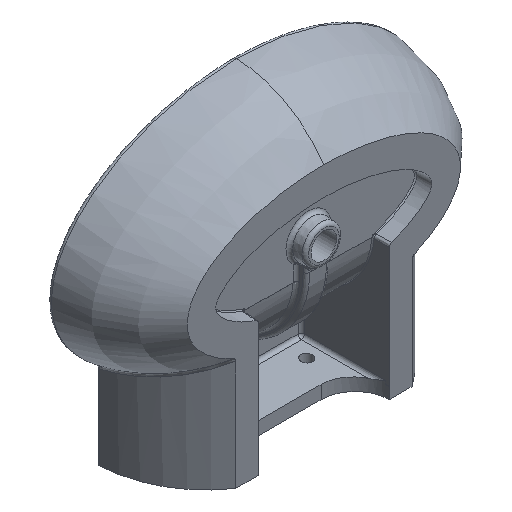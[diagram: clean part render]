
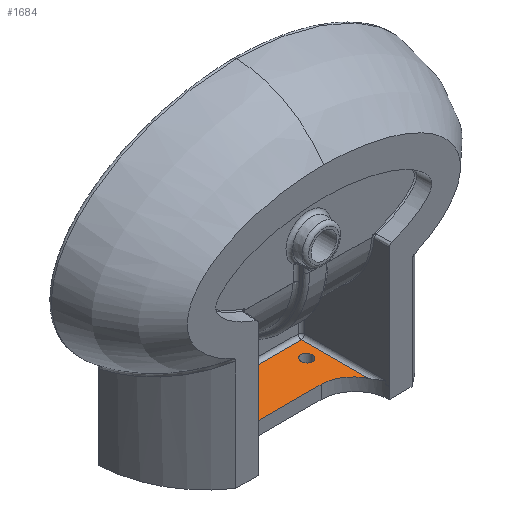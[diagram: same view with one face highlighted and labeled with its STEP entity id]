
A CAD part, isometric view. The second image highlights one B-rep face of the part: STEP entity #1684.
In plain terms, the highlighted planar face has unit normal (0, -0.052, 0.999).
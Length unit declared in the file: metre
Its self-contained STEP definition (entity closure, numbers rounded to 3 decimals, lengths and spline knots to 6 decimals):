
#110=FACE_BOUND('',#297,.T.);
#111=FACE_BOUND('',#298,.T.);
#118=ELLIPSE('',#1816,0.060082,0.06);
#119=ELLIPSE('',#1817,0.060082,0.06);
#120=ELLIPSE('',#1818,0.010014,0.01);
#121=ELLIPSE('',#1819,0.010014,0.01);
#171=FACE_OUTER_BOUND('',#296,.T.);
#296=EDGE_LOOP('',(#1215,#1216,#1217,#1218,#1219,#1220));
#297=EDGE_LOOP('',(#1221));
#298=EDGE_LOOP('',(#1222));
#613=LINE('',#6930,#671);
#614=LINE('',#6932,#672);
#615=LINE('',#6936,#673);
#616=LINE('',#6939,#674);
#671=VECTOR('',#2039,0.203205);
#672=VECTOR('',#2040,0.112546);
#673=VECTOR('',#2043,0.11);
#674=VECTOR('',#2046,0.112546);
#774=VERTEX_POINT('',#6928);
#775=VERTEX_POINT('',#6929);
#776=VERTEX_POINT('',#6931);
#777=VERTEX_POINT('',#6933);
#778=VERTEX_POINT('',#6935);
#779=VERTEX_POINT('',#6937);
#780=VERTEX_POINT('',#6940);
#781=VERTEX_POINT('',#6942);
#938=EDGE_CURVE('',#774,#775,#613,.F.);
#939=EDGE_CURVE('',#775,#776,#614,.F.);
#940=EDGE_CURVE('',#777,#776,#118,.T.);
#941=EDGE_CURVE('',#778,#777,#615,.F.);
#942=EDGE_CURVE('',#778,#779,#119,.T.);
#943=EDGE_CURVE('',#774,#779,#616,.F.);
#944=EDGE_CURVE('',#780,#780,#120,.T.);
#945=EDGE_CURVE('',#781,#781,#121,.T.);
#1215=ORIENTED_EDGE('',*,*,#938,.T.);
#1216=ORIENTED_EDGE('',*,*,#939,.T.);
#1217=ORIENTED_EDGE('',*,*,#940,.F.);
#1218=ORIENTED_EDGE('',*,*,#941,.F.);
#1219=ORIENTED_EDGE('',*,*,#942,.T.);
#1220=ORIENTED_EDGE('',*,*,#943,.F.);
#1221=ORIENTED_EDGE('',*,*,#944,.T.);
#1222=ORIENTED_EDGE('',*,*,#945,.F.);
#1659=PLANE('',#1815);
#1684=ADVANCED_FACE('',(#171,#110,#111),#1659,.T.);
#1815=AXIS2_PLACEMENT_3D('',#6927,#2037,#2038);
#1816=AXIS2_PLACEMENT_3D('',#6934,#2041,#2042);
#1817=AXIS2_PLACEMENT_3D('',#6938,#2044,#2045);
#1818=AXIS2_PLACEMENT_3D('',#6941,#2047,#2048);
#1819=AXIS2_PLACEMENT_3D('',#6943,#2049,#2050);
#2037=DIRECTION('center_axis',(0.,-0.052,0.999));
#2038=DIRECTION('ref_axis',(1.,0.,0.));
#2039=DIRECTION('',(1.,0.,0.));
#2040=DIRECTION('',(0.052,0.997,0.052));
#2041=DIRECTION('center_axis',(0.,-0.052,0.999));
#2042=DIRECTION('ref_axis',(0.,-0.999,-0.052));
#2043=DIRECTION('',(1.,0.,0.));
#2044=DIRECTION('center_axis',(0.,0.052,-0.999));
#2045=DIRECTION('ref_axis',(0.,-0.999,-0.052));
#2046=DIRECTION('',(-0.052,0.997,0.052));
#2047=DIRECTION('center_axis',(0.,0.052,-0.999));
#2048=DIRECTION('ref_axis',(0.,-0.999,-0.052));
#2049=DIRECTION('center_axis',(0.,-0.052,0.999));
#2050=DIRECTION('ref_axis',(0.,-0.999,-0.052));
#6927=CARTESIAN_POINT('Origin',(-0.115,-0.16,-0.271799));
#6928=CARTESIAN_POINT('',(0.101602,-0.018686,-0.264393));
#6929=CARTESIAN_POINT('',(-0.101602,-0.018686,-0.264393));
#6930=CARTESIAN_POINT('',(-0.101602,-0.018686,-0.264393));
#6931=CARTESIAN_POINT('',(-0.107484,-0.130925,-0.270275));
#6932=CARTESIAN_POINT('',(-0.107484,-0.130925,-0.270275));
#6933=CARTESIAN_POINT('',(-0.055,-0.1,-0.268654));
#6934=CARTESIAN_POINT('Origin',(-0.055,-0.16,-0.271799));
#6935=CARTESIAN_POINT('',(0.055,-0.1,-0.268654));
#6936=CARTESIAN_POINT('',(-0.055,-0.1,-0.268654));
#6937=CARTESIAN_POINT('',(0.107484,-0.130925,-0.270275));
#6938=CARTESIAN_POINT('Origin',(0.055,-0.16,-0.271799));
#6939=CARTESIAN_POINT('',(0.107484,-0.130925,-0.270275));
#6940=CARTESIAN_POINT('',(0.08,-0.06,-0.266558));
#6941=CARTESIAN_POINT('Origin',(0.08,-0.05,-0.266034));
#6942=CARTESIAN_POINT('',(-0.08,-0.06,-0.266558));
#6943=CARTESIAN_POINT('Origin',(-0.08,-0.05,-0.266034));
